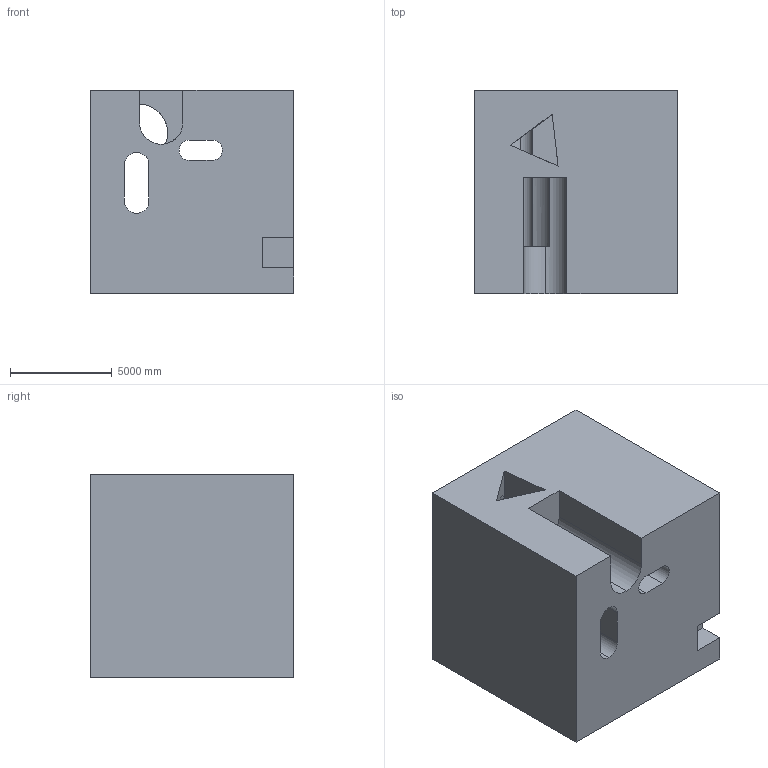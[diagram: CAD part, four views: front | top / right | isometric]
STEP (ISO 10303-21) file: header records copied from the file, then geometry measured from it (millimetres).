
FILE_DESCRIPTION (( 'STEP AP203' ), '1' );
FILE_NAME ('524.STEP', '2022-07-29T11:38:53', ( 'user' ), ( '' ), 'SwSTEP 2.0', 'SolidWorks 2021', '' );
FILE_SCHEMA (( 'CONFIG_CONTROL_DESIGN' ));
Length unit declared in the file: centimetre
Products named in the file (1): 524
Bounding box: 10000 x 10000 x 10000 mm (x, y, z)
Volume: 867052312811.6 mm3; surface area: 785824156.6 mm2
Topology: 1 solids, 1 shells, 33 faces, 102 edges, 68 vertices
Faces by surface type: plane 22, cylinder 11
Entity records: 1232 total; most frequent: CARTESIAN_POINT 222, ORIENTED_EDGE 204, DIRECTION 187, EDGE_CURVE 102, VECTOR 73, LINE 73, VERTEX_POINT 68, AXIS2_PLACEMENT_3D 57
